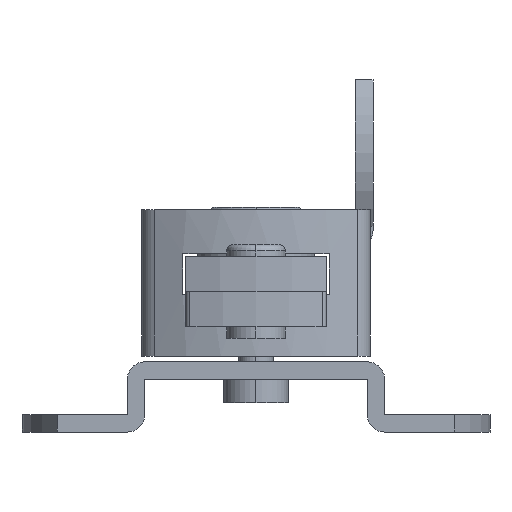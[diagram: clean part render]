
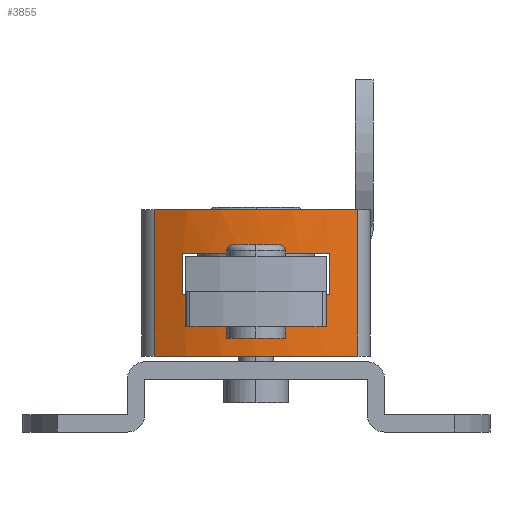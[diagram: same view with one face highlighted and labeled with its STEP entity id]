
A CAD part, left-side view. The second image highlights one B-rep face of the part: STEP entity #3855.
In plain terms, the highlighted cylindrical face has radius 18.17 mm (diameter 36.34 mm), a partial arc.
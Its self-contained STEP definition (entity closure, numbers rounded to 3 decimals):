
#85 = CARTESIAN_POINT ( 'NONE',  ( -8.889, -6.25, -3.75 ) ) ;
#100 = CARTESIAN_POINT ( 'NONE',  ( -7.775, -8.709, 0. ) ) ;
#148 = CIRCLE ( 'NONE', #149, 18.17 ) ;
#149 = AXIS2_PLACEMENT_3D ( 'NONE', #150, #151, #152 ) ;
#150 = CARTESIAN_POINT ( 'NONE',  ( 8.173, 0., -3.75 ) ) ;
#151 = DIRECTION ( 'NONE',  ( 0., 0., -1. ) ) ;
#152 = DIRECTION ( 'NONE',  ( 0., -1., 0. ) ) ;
#199 = LINE ( 'NONE', #200, #201 ) ;
#200 = CARTESIAN_POINT ( 'NONE',  ( -7.775, -8.709, -12.5 ) ) ;
#201 = VECTOR ( 'NONE', #202, 1000. ) ;
#202 = DIRECTION ( 'NONE',  ( 0., 0., 1. ) ) ;
#964 = EDGE_CURVE ( 'NONE', #1023, #1314, #2757, .T. ) ;
#984 = ORIENTED_EDGE ( 'NONE', *, *, #964, .T. ) ;
#1023 = VERTEX_POINT ( 'NONE', #3142 ) ;
#1038 = EDGE_CURVE ( 'NONE', #1023, #1101, #3273, .T. ) ;
#1063 = ORIENTED_EDGE ( 'NONE', *, *, #1038, .F. ) ;
#1101 = VERTEX_POINT ( 'NONE', #100 ) ;
#1114 = EDGE_CURVE ( 'NONE', #1758, #1101, #199, .T. ) ;
#1140 = ORIENTED_EDGE ( 'NONE', *, *, #1114, .T. ) ;
#1183 = ORIENTED_EDGE ( 'NONE', *, *, #1347, .T. ) ;
#1252 = EDGE_LOOP ( 'NONE', ( #1183, #1140, #1063, #984 ) ) ;
#1289 = EDGE_CURVE ( 'NONE', #3746, #3277, #2227, .T. ) ;
#1314 = VERTEX_POINT ( 'NONE', #2295 ) ;
#1343 = ORIENTED_EDGE ( 'NONE', *, *, #1289, .F. ) ;
#1347 = EDGE_CURVE ( 'NONE', #1314, #1758, #2432, .T. ) ;
#1731 = CARTESIAN_POINT ( 'NONE',  ( -8.889, 6.25, -3.75 ) ) ;
#1758 = VERTEX_POINT ( 'NONE', #2910 ) ;
#1888 = LINE ( 'NONE', #1889, #1890 ) ;
#1889 = CARTESIAN_POINT ( 'NONE',  ( -8.889, 6.25, -12.5 ) ) ;
#1890 = VECTOR ( 'NONE', #1891, 1000. ) ;
#1891 = DIRECTION ( 'NONE',  ( 0., 0., -1. ) ) ;
#2227 = LINE ( 'NONE', #2228, #2229 ) ;
#2228 = CARTESIAN_POINT ( 'NONE',  ( -8.889, -6.25, -12.5 ) ) ;
#2229 = VECTOR ( 'NONE', #2230, 1000. ) ;
#2230 = DIRECTION ( 'NONE',  ( 0., 0., 1. ) ) ;
#2295 = CARTESIAN_POINT ( 'NONE',  ( -7.775, 8.709, -12.5 ) ) ;
#2296 = CARTESIAN_POINT ( 'NONE',  ( -8.889, -6.25, -7.25 ) ) ;
#2432 = CIRCLE ( 'NONE', #2433, 18.17 ) ;
#2433 = AXIS2_PLACEMENT_3D ( 'NONE', #2434, #2435, #2436 ) ;
#2434 = CARTESIAN_POINT ( 'NONE',  ( 8.173, 0., -12.5 ) ) ;
#2435 = DIRECTION ( 'NONE',  ( 0., 0., 1. ) ) ;
#2436 = DIRECTION ( 'NONE',  ( 1., 0., 0. ) ) ;
#2442 = CARTESIAN_POINT ( 'NONE',  ( -8.889, 6.25, -7.25 ) ) ;
#2608 = CIRCLE ( 'NONE', #2609, 18.17 ) ;
#2609 = AXIS2_PLACEMENT_3D ( 'NONE', #2610, #2611, #2612 ) ;
#2610 = CARTESIAN_POINT ( 'NONE',  ( 8.173, 0., -7.25 ) ) ;
#2611 = DIRECTION ( 'NONE',  ( 0., 0., 1. ) ) ;
#2612 = DIRECTION ( 'NONE',  ( 0., 1., 0. ) ) ;
#2757 = LINE ( 'NONE', #2758, #2759 ) ;
#2758 = CARTESIAN_POINT ( 'NONE',  ( -7.775, 8.709, -12.5 ) ) ;
#2759 = VECTOR ( 'NONE', #2760, 1000. ) ;
#2760 = DIRECTION ( 'NONE',  ( 0., 0., -1. ) ) ;
#2910 = CARTESIAN_POINT ( 'NONE',  ( -7.775, -8.709, -12.5 ) ) ;
#3142 = CARTESIAN_POINT ( 'NONE',  ( -7.775, 8.709, 0. ) ) ;
#3161 = FACE_BOUND ( 'NONE', #3838, .T. ) ;
#3162 = FACE_OUTER_BOUND ( 'NONE', #1252, .T. ) ;
#3163 = CYLINDRICAL_SURFACE ( 'NONE', #3164, 18.17 ) ;
#3164 = AXIS2_PLACEMENT_3D ( 'NONE', #3165, #3167, #3168 ) ;
#3165 = CARTESIAN_POINT ( 'NONE',  ( 8.173, 0., -12.5 ) ) ;
#3167 = DIRECTION ( 'NONE',  ( 0., 0., 1. ) ) ;
#3168 = DIRECTION ( 'NONE',  ( 1., 0., 0. ) ) ;
#3273 = CIRCLE ( 'NONE', #3274, 18.17 ) ;
#3274 = AXIS2_PLACEMENT_3D ( 'NONE', #3275, #3276, #3279 ) ;
#3275 = CARTESIAN_POINT ( 'NONE',  ( 8.173, 0., 0. ) ) ;
#3276 = DIRECTION ( 'NONE',  ( 0., 0., 1. ) ) ;
#3277 = VERTEX_POINT ( 'NONE', #85 ) ;
#3279 = DIRECTION ( 'NONE',  ( 1., 0., 0. ) ) ;
#3407 = EDGE_CURVE ( 'NONE', #3277, #3671, #148, .T. ) ;
#3641 = ORIENTED_EDGE ( 'NONE', *, *, #3407, .F. ) ;
#3671 = VERTEX_POINT ( 'NONE', #1731 ) ;
#3690 = EDGE_CURVE ( 'NONE', #3671, #3763, #1888, .T. ) ;
#3712 = ORIENTED_EDGE ( 'NONE', *, *, #3690, .F. ) ;
#3746 = VERTEX_POINT ( 'NONE', #2296 ) ;
#3763 = VERTEX_POINT ( 'NONE', #2442 ) ;
#3778 = EDGE_CURVE ( 'NONE', #3763, #3746, #2608, .T. ) ;
#3806 = ORIENTED_EDGE ( 'NONE', *, *, #3778, .F. ) ;
#3838 = EDGE_LOOP ( 'NONE', ( #3806, #3712, #3641, #1343 ) ) ;
#3855 = ADVANCED_FACE ( 'NONE', ( #3161, #3162 ), #3163, .T. ) ;
